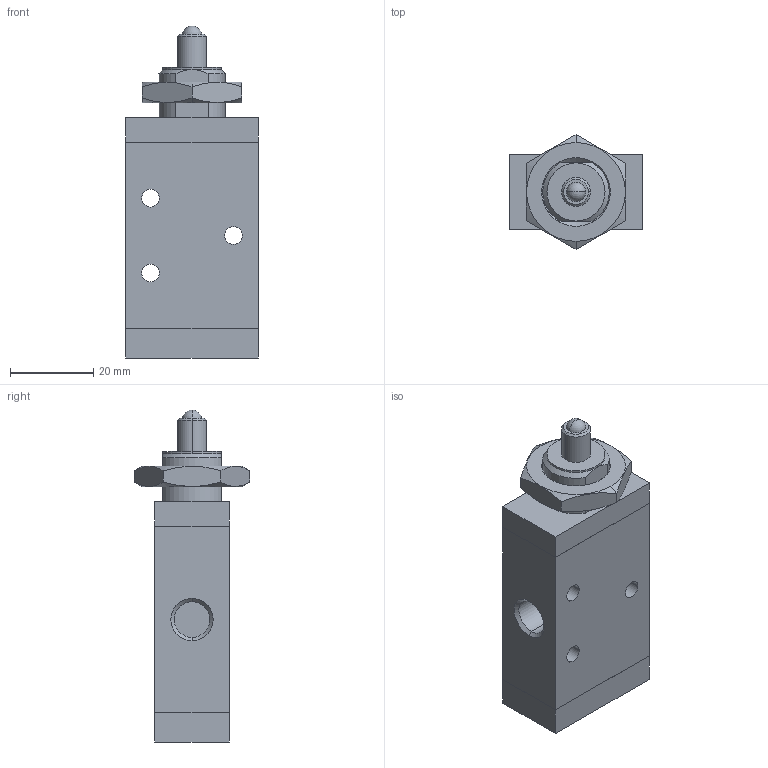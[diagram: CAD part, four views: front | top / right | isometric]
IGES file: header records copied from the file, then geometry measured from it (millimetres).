
Global section: file name: No Iges File Name specified; native system: AutoDesk Inventor R11.0; preprocessor: AutoDesk Inventor Iges Exporter R11.0; author: No Author specified; organization: No Organization specified; date: 20061219.113735; units: millimetre
Bounding box: 32 x 27.71 x 80 mm (x, y, z)
Volume: 35334.7 mm3; surface area: 10176.8 mm2
Topology: 2 solids, 2 shells, 71 faces, 162 edges, 101 vertices
Faces by surface type: plane 28, bspline 21, revolution 8, cone 6, cylinder 6, sphere 2
